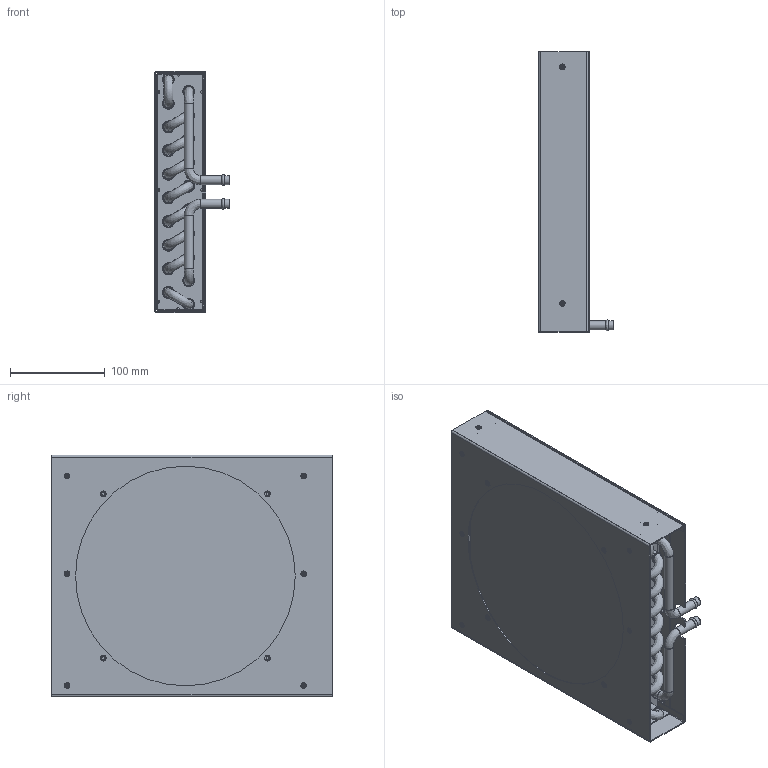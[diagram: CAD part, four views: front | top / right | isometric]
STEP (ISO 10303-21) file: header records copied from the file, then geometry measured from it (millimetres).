
FILE_DESCRIPTION (( 'STEP AP203' ), '1' );
FILE_NAME ('8303000001401.step', '2016-08-11T06:34:47', ( 'FORMATC' ), ( '' ), 'SwSTEP 2.0', 'SolidWorks 2016', '' );
FILE_SCHEMA (( 'CONFIG_CONTROL_DESIGN' ));
Length unit declared in the file: millimetre
Products named in the file (1): 8303000001401
Bounding box: 79 x 296 x 255.4 mm (x, y, z)
Volume: 2327088.7 mm3; surface area: 680555.7 mm2
Topology: 52 solids, 52 shells, 736 faces, 1653 edges, 1049 vertices
Faces by surface type: cylinder 318, plane 226, cone 112, bspline 80
Full cylindrical faces by diameter (mm): 1.7 x16, 3 x16, 3.2 x32, 3.242 x8, 3.8 x16, 5.98 x8, 6 x24, 7 x8, 8 x8, 8.12 x6, 8.92 x20, 9.52 x28, 9.8 x20, 10.1 x54, 10.4 x20, 12 x6, 232 x2
Entity records: 21213 total; most frequent: CARTESIAN_POINT 7011, DIRECTION 3030, ORIENTED_EDGE 2008, EDGE_LOOP 1530, AXIS2_PLACEMENT_3D 1409, FACE_OUTER_BOUND 1092, EDGE_CURVE 1004, VERTEX_POINT 900
